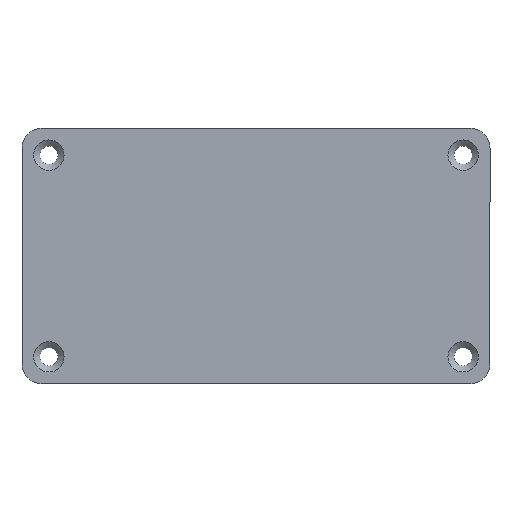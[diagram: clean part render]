
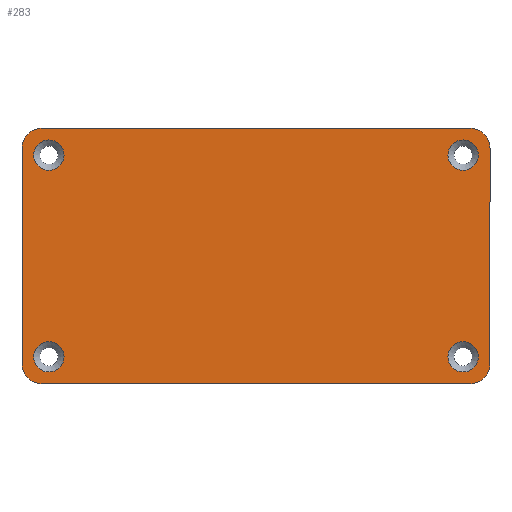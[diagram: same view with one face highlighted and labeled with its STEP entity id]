
A CAD part, top view. The second image highlights one B-rep face of the part: STEP entity #283.
In plain terms, the highlighted planar face has unit normal (0, 0, 1).
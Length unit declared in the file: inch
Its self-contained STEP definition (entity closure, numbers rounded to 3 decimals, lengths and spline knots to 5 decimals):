
#12 = FACE_OUTER_BOUND ( 'NONE', #593, .T. ) ;
#13 = DIRECTION ( 'NONE',  ( 1., 0., 0. ) ) ;
#20 = DIRECTION ( 'NONE',  ( 0., 0., 1. ) ) ;
#26 = CARTESIAN_POINT ( 'NONE',  ( 1.74289, -0.43741, 0. ) ) ;
#27 = CARTESIAN_POINT ( 'NONE',  ( -1.73711, -2.18741, 0. ) ) ;
#28 = EDGE_CURVE ( 'NONE', #538, #223, #71, .T. ) ;
#29 = CARTESIAN_POINT ( 'NONE',  ( -1.73711, -0.28741, 0. ) ) ;
#36 = DIRECTION ( 'NONE',  ( 1., 0., 0. ) ) ;
#42 = VERTEX_POINT ( 'NONE', #527 ) ;
#50 = VERTEX_POINT ( 'NONE', #574 ) ;
#51 = CARTESIAN_POINT ( 'NONE',  ( -1.58711, -2.18741, 0. ) ) ;
#59 = CARTESIAN_POINT ( 'NONE',  ( -1.53711, -1.98741, 0. ) ) ;
#64 = LINE ( 'NONE', #27, #196 ) ;
#71 = LINE ( 'NONE', #158, #558 ) ;
#72 = CARTESIAN_POINT ( 'NONE',  ( -1.58711, -0.43741, 0. ) ) ;
#74 = AXIS2_PLACEMENT_3D ( 'NONE', #570, #216, #577 ) ;
#76 = ORIENTED_EDGE ( 'NONE', *, *, #187, .F. ) ;
#84 = LINE ( 'NONE', #29, #592 ) ;
#88 = ORIENTED_EDGE ( 'NONE', *, *, #243, .T. ) ;
#90 = EDGE_CURVE ( 'NONE', #223, #50, #373, .T. ) ;
#106 = CIRCLE ( 'NONE', #74, 0.1125 ) ;
#111 = AXIS2_PLACEMENT_3D ( 'NONE', #572, #212, #254 ) ;
#116 = CARTESIAN_POINT ( 'NONE',  ( -1.42461, -0.48741, 0. ) ) ;
#117 = DIRECTION ( 'NONE',  ( 0., 1., 0. ) ) ;
#121 = ORIENTED_EDGE ( 'NONE', *, *, #385, .T. ) ;
#141 = DIRECTION ( 'NONE',  ( 1., 0., 0. ) ) ;
#150 = CARTESIAN_POINT ( 'NONE',  ( 1.65539, -0.48741, 0. ) ) ;
#151 = EDGE_CURVE ( 'NONE', #241, #538, #154, .T. ) ;
#154 = CIRCLE ( 'NONE', #362, 0.15 ) ;
#158 = CARTESIAN_POINT ( 'NONE',  ( 1.74289, -0.28741, 0. ) ) ;
#168 = DIRECTION ( 'NONE',  ( 0., 0., 1. ) ) ;
#172 = AXIS2_PLACEMENT_3D ( 'NONE', #72, #20, #13 ) ;
#182 = DIRECTION ( 'NONE',  ( 0., -1., 0. ) ) ;
#187 = EDGE_CURVE ( 'NONE', #377, #377, #383, .T. ) ;
#196 = VECTOR ( 'NONE', #477, 39.37008 ) ;
#205 = CARTESIAN_POINT ( 'NONE',  ( 1.59289, -0.43741, 0. ) ) ;
#212 = DIRECTION ( 'NONE',  ( 0., 0., 1. ) ) ;
#216 = DIRECTION ( 'NONE',  ( 0., 0., 1. ) ) ;
#223 = VERTEX_POINT ( 'NONE', #26 ) ;
#229 = CIRCLE ( 'NONE', #469, 0.1125 ) ;
#238 = AXIS2_PLACEMENT_3D ( 'NONE', #205, #291, #564 ) ;
#241 = VERTEX_POINT ( 'NONE', #487 ) ;
#243 = EDGE_CURVE ( 'NONE', #42, #338, #580, .T. ) ;
#254 = DIRECTION ( 'NONE',  ( 1., 0., 0. ) ) ;
#257 = EDGE_CURVE ( 'NONE', #273, #273, #465, .T. ) ;
#273 = VERTEX_POINT ( 'NONE', #150 ) ;
#281 = ORIENTED_EDGE ( 'NONE', *, *, #448, .T. ) ;
#283 = ADVANCED_FACE ( 'NONE', ( #366, #585, #470, #392, #12 ), #345, .T. ) ;
#291 = DIRECTION ( 'NONE',  ( 0., 0., 1. ) ) ;
#294 = DIRECTION ( 'NONE',  ( 0., 0., 1. ) ) ;
#297 = VERTEX_POINT ( 'NONE', #116 ) ;
#304 = CARTESIAN_POINT ( 'NONE',  ( -1.73711, -2.03741, 0. ) ) ;
#307 = EDGE_LOOP ( 'NONE', ( #411 ) ) ;
#309 = EDGE_CURVE ( 'NONE', #50, #42, #84, .T. ) ;
#311 = DIRECTION ( 'NONE',  ( -1., 0., 0. ) ) ;
#325 = CARTESIAN_POINT ( 'NONE',  ( -1.58711, -2.03741, 0. ) ) ;
#330 = VECTOR ( 'NONE', #182, 39.37008 ) ;
#338 = VERTEX_POINT ( 'NONE', #526 ) ;
#345 = PLANE ( 'NONE',  #390 ) ;
#358 = EDGE_LOOP ( 'NONE', ( #76 ) ) ;
#361 = ORIENTED_EDGE ( 'NONE', *, *, #90, .T. ) ;
#362 = AXIS2_PLACEMENT_3D ( 'NONE', #543, #587, #36 ) ;
#365 = EDGE_LOOP ( 'NONE', ( #381 ) ) ;
#366 = FACE_BOUND ( 'NONE', #365, .T. ) ;
#371 = VERTEX_POINT ( 'NONE', #532 ) ;
#373 = CIRCLE ( 'NONE', #238, 0.15 ) ;
#377 = VERTEX_POINT ( 'NONE', #399 ) ;
#381 = ORIENTED_EDGE ( 'NONE', *, *, #416, .F. ) ;
#383 = CIRCLE ( 'NONE', #540, 0.1125 ) ;
#385 = EDGE_CURVE ( 'NONE', #338, #553, #562, .T. ) ;
#390 = AXIS2_PLACEMENT_3D ( 'NONE', #403, #446, #531 ) ;
#392 = FACE_BOUND ( 'NONE', #307, .T. ) ;
#395 = CARTESIAN_POINT ( 'NONE',  ( 1.74289, -2.03741, 0. ) ) ;
#399 = CARTESIAN_POINT ( 'NONE',  ( -1.42461, -1.98741, 0. ) ) ;
#403 = CARTESIAN_POINT ( 'NONE',  ( 0., 0., 0. ) ) ;
#411 = ORIENTED_EDGE ( 'NONE', *, *, #560, .F. ) ;
#414 = DIRECTION ( 'NONE',  ( 0., 0., 1. ) ) ;
#416 = EDGE_CURVE ( 'NONE', #297, #297, #229, .T. ) ;
#426 = EDGE_LOOP ( 'NONE', ( #478 ) ) ;
#446 = DIRECTION ( 'NONE',  ( 0., 0., 1. ) ) ;
#448 = EDGE_CURVE ( 'NONE', #553, #518, #556, .T. ) ;
#465 = CIRCLE ( 'NONE', #111, 0.1125 ) ;
#468 = ORIENTED_EDGE ( 'NONE', *, *, #309, .T. ) ;
#469 = AXIS2_PLACEMENT_3D ( 'NONE', #551, #414, #141 ) ;
#470 = FACE_BOUND ( 'NONE', #358, .T. ) ;
#476 = EDGE_CURVE ( 'NONE', #518, #241, #64, .T. ) ;
#477 = DIRECTION ( 'NONE',  ( 1., 0., 0. ) ) ;
#478 = ORIENTED_EDGE ( 'NONE', *, *, #257, .F. ) ;
#487 = CARTESIAN_POINT ( 'NONE',  ( 1.59289, -2.18741, 0. ) ) ;
#496 = DIRECTION ( 'NONE',  ( 1., 0., 0. ) ) ;
#503 = AXIS2_PLACEMENT_3D ( 'NONE', #325, #168, #529 ) ;
#514 = ORIENTED_EDGE ( 'NONE', *, *, #28, .T. ) ;
#518 = VERTEX_POINT ( 'NONE', #51 ) ;
#525 = ORIENTED_EDGE ( 'NONE', *, *, #151, .T. ) ;
#526 = CARTESIAN_POINT ( 'NONE',  ( -1.73711, -0.43741, 0. ) ) ;
#527 = CARTESIAN_POINT ( 'NONE',  ( -1.58711, -0.28741, 0. ) ) ;
#529 = DIRECTION ( 'NONE',  ( 1., 0., 0. ) ) ;
#531 = DIRECTION ( 'NONE',  ( 1., 0., 0. ) ) ;
#532 = CARTESIAN_POINT ( 'NONE',  ( 1.65539, -1.98741, 0. ) ) ;
#538 = VERTEX_POINT ( 'NONE', #395 ) ;
#540 = AXIS2_PLACEMENT_3D ( 'NONE', #59, #294, #496 ) ;
#543 = CARTESIAN_POINT ( 'NONE',  ( 1.59289, -2.03741, 0. ) ) ;
#546 = CARTESIAN_POINT ( 'NONE',  ( -1.73711, -0.28741, 0. ) ) ;
#551 = CARTESIAN_POINT ( 'NONE',  ( -1.53711, -0.48741, 0. ) ) ;
#553 = VERTEX_POINT ( 'NONE', #304 ) ;
#556 = CIRCLE ( 'NONE', #503, 0.15 ) ;
#558 = VECTOR ( 'NONE', #117, 39.37008 ) ;
#560 = EDGE_CURVE ( 'NONE', #371, #371, #106, .T. ) ;
#562 = LINE ( 'NONE', #546, #330 ) ;
#564 = DIRECTION ( 'NONE',  ( 1., 0., 0. ) ) ;
#570 = CARTESIAN_POINT ( 'NONE',  ( 1.54289, -1.98741, 0. ) ) ;
#572 = CARTESIAN_POINT ( 'NONE',  ( 1.54289, -0.48741, 0. ) ) ;
#574 = CARTESIAN_POINT ( 'NONE',  ( 1.59289, -0.28741, 0. ) ) ;
#577 = DIRECTION ( 'NONE',  ( 1., 0., 0. ) ) ;
#580 = CIRCLE ( 'NONE', #172, 0.15 ) ;
#585 = FACE_BOUND ( 'NONE', #426, .T. ) ;
#587 = DIRECTION ( 'NONE',  ( 0., 0., 1. ) ) ;
#588 = ORIENTED_EDGE ( 'NONE', *, *, #476, .T. ) ;
#592 = VECTOR ( 'NONE', #311, 39.37008 ) ;
#593 = EDGE_LOOP ( 'NONE', ( #468, #88, #121, #281, #588, #525, #514, #361 ) ) ;
